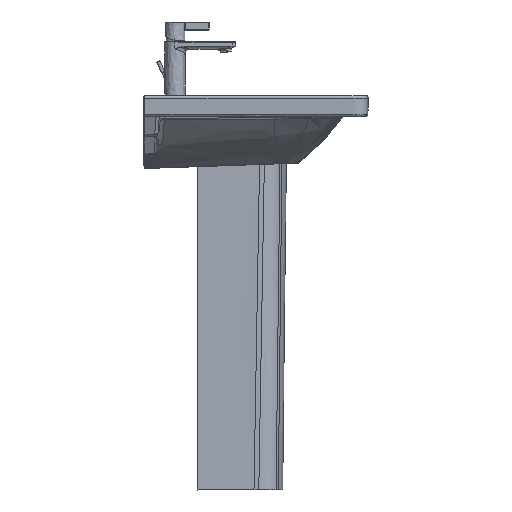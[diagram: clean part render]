
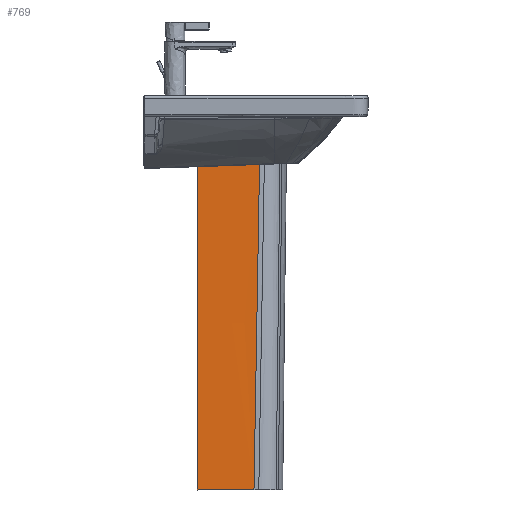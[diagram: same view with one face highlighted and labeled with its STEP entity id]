
A CAD part, left-side view. The second image highlights one B-rep face of the part: STEP entity #769.
In plain terms, the highlighted free-form (B-spline) face has degree [5, 5] with [9, 6] control points.
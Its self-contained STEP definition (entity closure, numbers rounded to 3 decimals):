
#769=ADVANCED_FACE('',(#1477),#10581,.T.);
#1477=FACE_OUTER_BOUND('',#2220,.T.);
#2220=EDGE_LOOP('',(#5538,#5539,#5540,#5541));
#5538=ORIENTED_EDGE('',*,*,#7278,.T.);
#5539=ORIENTED_EDGE('',*,*,#7280,.T.);
#5540=ORIENTED_EDGE('',*,*,#7279,.F.);
#5541=ORIENTED_EDGE('',*,*,#7264,.F.);
#7264=EDGE_CURVE('',#10029,#10015,#8963,.T.);
#7278=EDGE_CURVE('',#10029,#10036,#8977,.T.);
#7279=EDGE_CURVE('',#10015,#10016,#8978,.T.);
#7280=EDGE_CURVE('',#10036,#10016,#8979,.T.);
#8963=B_SPLINE_CURVE_WITH_KNOTS('',5,(#91593,#91594,#91595,#91596,#91597,
#91598,#91599,#91600,#91601,#91602,#91603,#91604,#91605,#91606,#91607,#91608,
#91609,#91610,#91611,#91612,#91613,#91614,#91615,#91616,#91617,#91618,#91619),
 .UNSPECIFIED.,.F.,.F.,(6,3,3,3,3,3,3,3,6),(-1014.293,-939.337,
-737.18,-534.646,-481.407,-329.77,
-152.247,-0.123,0.),.UNSPECIFIED.);
#8977=B_SPLINE_CURVE_WITH_KNOTS('',5,(#91816,#91817,#91818,#91819,#91820,
#91821),.UNSPECIFIED.,.F.,.F.,(6,6),(-44.424,76.24),
 .UNSPECIFIED.);
#8978=B_SPLINE_CURVE_WITH_KNOTS('',5,(#91822,#91823,#91824,#91825,#91826,
#91827),.UNSPECIFIED.,.F.,.F.,(6,6),(-132.778,0.),
 .UNSPECIFIED.);
#8979=B_SPLINE_CURVE_WITH_KNOTS('',5,(#91828,#91829,#91830,#91831,#91832,
#91833,#91834,#91835,#91836),.UNSPECIFIED.,.F.,.F.,(6,3,6),(-715.162,
-357.581,0.),.UNSPECIFIED.);
#10015=VERTEX_POINT('',#91317);
#10016=VERTEX_POINT('',#91318);
#10029=VERTEX_POINT('',#91331);
#10036=VERTEX_POINT('',#91338);
#10581=B_SPLINE_SURFACE_WITH_KNOTS('',5,5,((#89534,#89535,#89536,#89537,
#89538,#89539),(#89540,#89541,#89542,#89543,#89544,#89545),(#89546,#89547,
#89548,#89549,#89550,#89551),(#89552,#89553,#89554,#89555,#89556,#89557),
(#89558,#89559,#89560,#89561,#89562,#89563),(#89564,#89565,#89566,#89567,
#89568,#89569),(#89570,#89571,#89572,#89573,#89574,#89575),(#89576,#89577,
#89578,#89579,#89580,#89581),(#89582,#89583,#89584,#89585,#89586,#89587)),
 .UNSPECIFIED.,.F.,.F.,.F.,(6,3,6),(6,6),(0.,357.581,715.162),
(-86.45,76.24),.UNSPECIFIED.);
#89534=CARTESIAN_POINT('',(-85.765,154.916,-44.927));
#89535=CARTESIAN_POINT('',(-85.265,122.363,-44.927));
#89536=CARTESIAN_POINT('',(-84.765,89.811,-44.927));
#89537=CARTESIAN_POINT('',(-84.265,57.258,-44.927));
#89538=CARTESIAN_POINT('',(-83.765,24.705,-44.927));
#89539=CARTESIAN_POINT('',(-83.265,-7.847,-44.927));
#89540=CARTESIAN_POINT('',(-85.015,156.116,-116.427));
#89541=CARTESIAN_POINT('',(-84.849,123.561,-116.43));
#89542=CARTESIAN_POINT('',(-84.438,91.009,-116.43));
#89543=CARTESIAN_POINT('',(-83.905,58.457,-116.428));
#89544=CARTESIAN_POINT('',(-83.371,25.905,-116.426));
#89545=CARTESIAN_POINT('',(-82.96,-6.647,-116.427));
#89546=CARTESIAN_POINT('',(-84.265,157.316,-187.927));
#89547=CARTESIAN_POINT('',(-84.668,124.765,-187.936));
#89548=CARTESIAN_POINT('',(-84.463,92.219,-187.939));
#89549=CARTESIAN_POINT('',(-83.908,59.674,-187.938));
#89550=CARTESIAN_POINT('',(-83.261,27.129,-187.937));
#89551=CARTESIAN_POINT('',(-82.781,-5.419,-187.938));
#89552=CARTESIAN_POINT('',(-83.515,158.516,-259.427));
#89553=CARTESIAN_POINT('',(-83.321,125.971,-259.43));
#89554=CARTESIAN_POINT('',(-82.679,93.432,-259.426));
#89555=CARTESIAN_POINT('',(-81.865,60.896,-259.419));
#89556=CARTESIAN_POINT('',(-81.157,28.359,-259.412));
#89557=CARTESIAN_POINT('',(-80.83,-4.183,-259.41));
#89558=CARTESIAN_POINT('',(-82.015,160.916,-402.427));
#89559=CARTESIAN_POINT('',(-82.21,128.376,-402.434));
#89560=CARTESIAN_POINT('',(-81.622,95.848,-402.432));
#89561=CARTESIAN_POINT('',(-80.656,63.326,-402.426));
#89562=CARTESIAN_POINT('',(-79.717,30.803,-402.42));
#89563=CARTESIAN_POINT('',(-79.21,-1.727,-402.419));
#89564=CARTESIAN_POINT('',(-80.515,163.316,-545.427));
#89565=CARTESIAN_POINT('',(-80.321,130.784,-545.43));
#89566=CARTESIAN_POINT('',(-79.526,98.266,-545.426));
#89567=CARTESIAN_POINT('',(-78.472,65.754,-545.42));
#89568=CARTESIAN_POINT('',(-77.5,33.242,-545.413));
#89569=CARTESIAN_POINT('',(-76.949,0.722,-545.41));
#89570=CARTESIAN_POINT('',(-79.765,164.516,-616.927));
#89571=CARTESIAN_POINT('',(-80.168,131.986,-616.936));
#89572=CARTESIAN_POINT('',(-79.772,99.469,-616.939));
#89573=CARTESIAN_POINT('',(-78.916,66.957,-616.939));
#89574=CARTESIAN_POINT('',(-77.939,34.446,-616.938));
#89575=CARTESIAN_POINT('',(-77.18,1.929,-616.939));
#89576=CARTESIAN_POINT('',(-79.015,165.716,-688.427));
#89577=CARTESIAN_POINT('',(-78.849,133.189,-688.43));
#89578=CARTESIAN_POINT('',(-78.285,100.671,-688.43));
#89579=CARTESIAN_POINT('',(-77.512,68.157,-688.429));
#89580=CARTESIAN_POINT('',(-76.715,35.644,-688.427));
#89581=CARTESIAN_POINT('',(-76.081,3.127,-688.427));
#89582=CARTESIAN_POINT('',(-78.265,166.916,-759.927));
#89583=CARTESIAN_POINT('',(-77.766,134.398,-759.927));
#89584=CARTESIAN_POINT('',(-77.266,101.88,-759.927));
#89585=CARTESIAN_POINT('',(-76.767,69.363,-759.927));
#89586=CARTESIAN_POINT('',(-76.268,36.845,-759.927));
#89587=CARTESIAN_POINT('',(-75.768,4.327,-759.927));
#91317=CARTESIAN_POINT('',(-85.305,124.916,-44.927));
#91318=CARTESIAN_POINT('',(-83.265,-7.847,-44.927));
#91331=CARTESIAN_POINT('',(-77.62,124.916,-759.927));
#91338=CARTESIAN_POINT('',(-75.768,4.327,-759.927));
#91593=CARTESIAN_POINT('',(-77.62,124.916,-759.927));
#91594=CARTESIAN_POINT('',(-77.763,124.916,-749.329));
#91595=CARTESIAN_POINT('',(-77.913,124.916,-738.731));
#91596=CARTESIAN_POINT('',(-78.065,124.916,-728.134));
#91597=CARTESIAN_POINT('',(-78.619,124.916,-688.954));
#91598=CARTESIAN_POINT('',(-79.132,124.916,-649.773));
#91599=CARTESIAN_POINT('',(-79.451,124.916,-621.105));
#91600=CARTESIAN_POINT('',(-80.029,124.916,-563.884));
#91601=CARTESIAN_POINT('',(-80.583,124.916,-506.664));
#91602=CARTESIAN_POINT('',(-80.876,124.916,-478.208));
#91603=CARTESIAN_POINT('',(-81.292,124.916,-442.044));
#91604=CARTESIAN_POINT('',(-81.697,124.916,-405.88));
#91605=CARTESIAN_POINT('',(-81.759,124.916,-400.24));
#91606=CARTESIAN_POINT('',(-82.071,124.916,-371.272));
#91607=CARTESIAN_POINT('',(-82.375,124.916,-342.305));
#91608=CARTESIAN_POINT('',(-82.613,124.916,-320.814));
#91609=CARTESIAN_POINT('',(-83.149,124.916,-274.274));
#91610=CARTESIAN_POINT('',(-83.696,124.916,-227.734));
#91611=CARTESIAN_POINT('',(-83.982,124.916,-202.722));
#91612=CARTESIAN_POINT('',(-84.462,124.916,-156.113));
#91613=CARTESIAN_POINT('',(-84.844,124.916,-109.502));
#91614=CARTESIAN_POINT('',(-84.999,124.916,-88.033));
#91615=CARTESIAN_POINT('',(-85.143,124.916,-66.506));
#91616=CARTESIAN_POINT('',(-85.304,124.916,-44.979));
#91617=CARTESIAN_POINT('',(-85.304,124.916,-44.976));
#91618=CARTESIAN_POINT('',(-85.304,124.916,-44.951));
#91619=CARTESIAN_POINT('',(-85.305,124.916,-44.927));
#91816=CARTESIAN_POINT('',(-77.62,124.916,-759.927));
#91817=CARTESIAN_POINT('',(-77.25,100.798,-759.927));
#91818=CARTESIAN_POINT('',(-76.879,76.68,-759.927));
#91819=CARTESIAN_POINT('',(-76.509,52.563,-759.927));
#91820=CARTESIAN_POINT('',(-76.139,28.445,-759.927));
#91821=CARTESIAN_POINT('',(-75.768,4.327,-759.927));
#91822=CARTESIAN_POINT('',(-85.305,124.916,-44.927));
#91823=CARTESIAN_POINT('',(-84.897,98.363,-44.927));
#91824=CARTESIAN_POINT('',(-84.489,71.811,-44.927));
#91825=CARTESIAN_POINT('',(-84.081,45.258,-44.927));
#91826=CARTESIAN_POINT('',(-83.673,18.705,-44.927));
#91827=CARTESIAN_POINT('',(-83.265,-7.847,-44.927));
#91828=CARTESIAN_POINT('',(-75.768,4.327,-759.927));
#91829=CARTESIAN_POINT('',(-76.081,3.127,-688.427));
#91830=CARTESIAN_POINT('',(-77.18,1.929,-616.939));
#91831=CARTESIAN_POINT('',(-76.949,0.722,-545.41));
#91832=CARTESIAN_POINT('',(-79.21,-1.727,-402.419));
#91833=CARTESIAN_POINT('',(-80.83,-4.183,-259.41));
#91834=CARTESIAN_POINT('',(-82.781,-5.419,-187.938));
#91835=CARTESIAN_POINT('',(-82.96,-6.647,-116.427));
#91836=CARTESIAN_POINT('',(-83.265,-7.847,-44.927));
